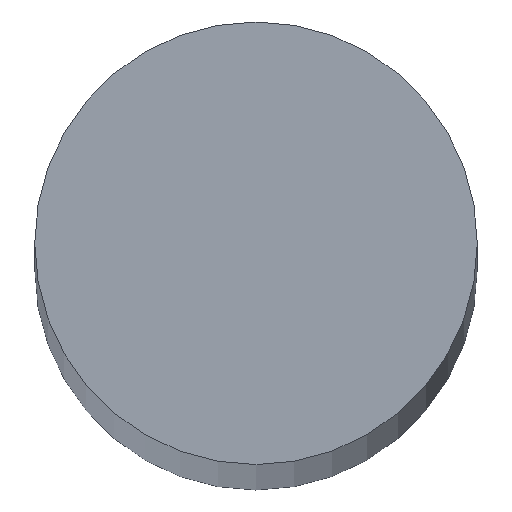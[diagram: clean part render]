
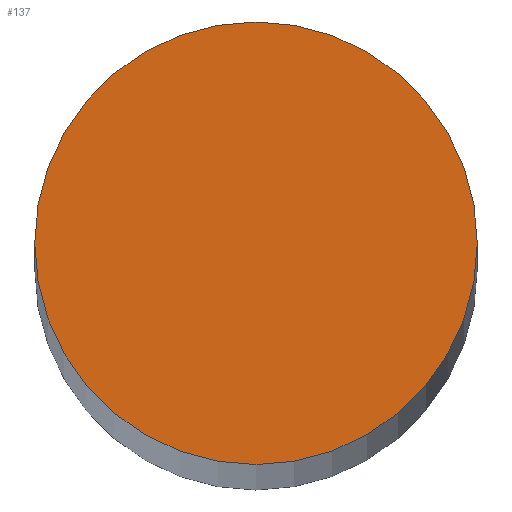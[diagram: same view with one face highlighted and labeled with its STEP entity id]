
A CAD part, top view. The second image highlights one B-rep face of the part: STEP entity #137.
In plain terms, the highlighted planar face has unit normal (0, 0, 1).
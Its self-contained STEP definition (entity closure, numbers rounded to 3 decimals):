
#7 = ORIENTED_EDGE ( 'NONE', *, *, #50, .T. ) ;
#8 = ORIENTED_EDGE ( 'NONE', *, *, #40, .T. ) ;
#20 = EDGE_LOOP ( 'NONE', ( #8, #7 ) ) ;
#26 = CIRCLE ( 'NONE', #34, 6. ) ;
#29 = CIRCLE ( 'NONE', #52, 6. ) ;
#34 = AXIS2_PLACEMENT_3D ( 'NONE', #71, #74, #75 ) ;
#36 = AXIS2_PLACEMENT_3D ( 'NONE', #97, #100, #101 ) ;
#40 = EDGE_CURVE ( 'NONE', #64, #63, #26, .T. ) ;
#50 = EDGE_CURVE ( 'NONE', #63, #64, #29, .T. ) ;
#52 = AXIS2_PLACEMENT_3D ( 'NONE', #73, #82, #83 ) ;
#53 = FACE_OUTER_BOUND ( 'NONE', #20, .T. ) ;
#63 = VERTEX_POINT ( 'NONE', #81 ) ;
#64 = VERTEX_POINT ( 'NONE', #84 ) ;
#71 = CARTESIAN_POINT ( 'NONE',  ( 0., 0., 197.5 ) ) ;
#73 = CARTESIAN_POINT ( 'NONE',  ( 0., 0., 197.5 ) ) ;
#74 = DIRECTION ( 'NONE',  ( 0., 0., 1. ) ) ;
#75 = DIRECTION ( 'NONE',  ( 1., 0., 0. ) ) ;
#81 = CARTESIAN_POINT ( 'NONE',  ( 6., 0., 197.5 ) ) ;
#82 = DIRECTION ( 'NONE',  ( 0., 0., 1. ) ) ;
#83 = DIRECTION ( 'NONE',  ( 1., 0., 0. ) ) ;
#84 = CARTESIAN_POINT ( 'NONE',  ( -6., 0., 197.5 ) ) ;
#97 = CARTESIAN_POINT ( 'NONE',  ( 0., 0., 197.5 ) ) ;
#98 = PLANE ( 'NONE',  #36 ) ;
#100 = DIRECTION ( 'NONE',  ( 0., 0., 1. ) ) ;
#101 = DIRECTION ( 'NONE',  ( 1., 0., 0. ) ) ;
#137 = ADVANCED_FACE ( 'NONE', ( #53 ), #98, .T. ) ;
